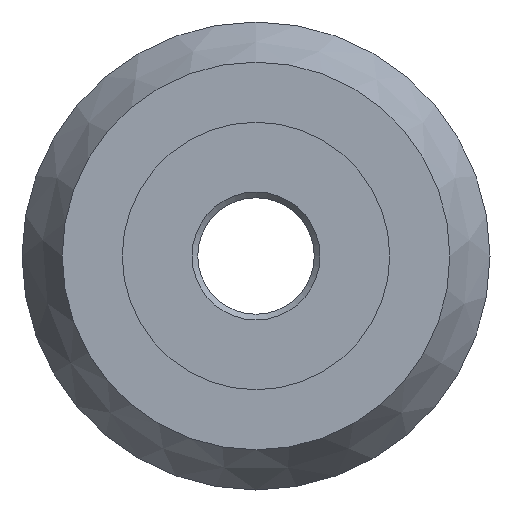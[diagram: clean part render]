
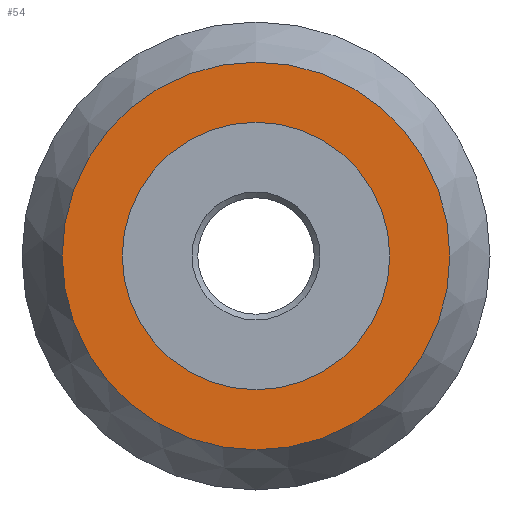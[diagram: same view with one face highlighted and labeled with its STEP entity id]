
A CAD part, left-side view. The second image highlights one B-rep face of the part: STEP entity #54.
In plain terms, the highlighted planar face has unit normal (-1, 0, 0).
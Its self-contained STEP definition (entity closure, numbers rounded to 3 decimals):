
#17 = EDGE_CURVE ( 'NONE', #49, #49, #224, .T. ) ;
#36 = DIRECTION ( 'NONE',  ( 0., 0., 1. ) ) ;
#41 = AXIS2_PLACEMENT_3D ( 'NONE', #186, #84, #258 ) ;
#49 = VERTEX_POINT ( 'NONE', #222 ) ;
#54 = ADVANCED_FACE ( 'NONE', ( #167, #85 ), #190, .F. ) ;
#57 = ORIENTED_EDGE ( 'NONE', *, *, #17, .T. ) ;
#65 = CARTESIAN_POINT ( 'NONE',  ( -9., 10.15, 0. ) ) ;
#76 = EDGE_LOOP ( 'NONE', ( #183 ) ) ;
#84 = DIRECTION ( 'NONE',  ( -1., 0., 0. ) ) ;
#85 = FACE_OUTER_BOUND ( 'NONE', #96, .T. ) ;
#88 = DIRECTION ( 'NONE',  ( 0., 0., -1. ) ) ;
#96 = EDGE_LOOP ( 'NONE', ( #57 ) ) ;
#113 = CARTESIAN_POINT ( 'NONE',  ( -9., 0., 7. ) ) ;
#117 = VERTEX_POINT ( 'NONE', #113 ) ;
#133 = AXIS2_PLACEMENT_3D ( 'NONE', #65, #236, #88 ) ;
#138 = CARTESIAN_POINT ( 'NONE',  ( -9., 0., 0. ) ) ;
#149 = AXIS2_PLACEMENT_3D ( 'NONE', #138, #180, #36 ) ;
#167 = FACE_BOUND ( 'NONE', #76, .T. ) ;
#180 = DIRECTION ( 'NONE',  ( -1., 0., 0. ) ) ;
#183 = ORIENTED_EDGE ( 'NONE', *, *, #205, .F. ) ;
#186 = CARTESIAN_POINT ( 'NONE',  ( -9., 0., 0. ) ) ;
#190 = PLANE ( 'NONE',  #133 ) ;
#205 = EDGE_CURVE ( 'NONE', #117, #117, #220, .T. ) ;
#220 = CIRCLE ( 'NONE', #41, 7. ) ;
#222 = CARTESIAN_POINT ( 'NONE',  ( -9., 0., 10.15 ) ) ;
#224 = CIRCLE ( 'NONE', #149, 10.15 ) ;
#236 = DIRECTION ( 'NONE',  ( 1., 0., 0. ) ) ;
#258 = DIRECTION ( 'NONE',  ( 0., 0., 1. ) ) ;
